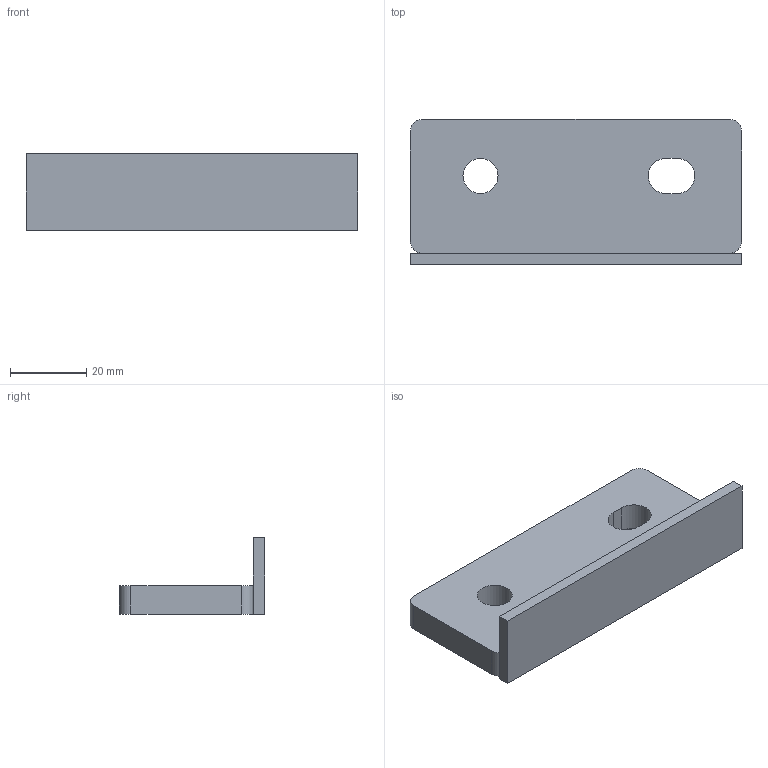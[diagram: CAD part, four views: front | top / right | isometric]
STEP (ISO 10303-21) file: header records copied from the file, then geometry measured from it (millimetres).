
FILE_DESCRIPTION(('FreeCAD Model'),'2;1');
FILE_NAME('Open CASCADE Shape Model','2026-09-11T13:41:38',( '' ),( '' ),'Open CASCADE STEP processor 7.8','FreeCAD','Unknown');
FILE_SCHEMA(('AUTOMOTIVE_DESIGN { 1 0 10303 214 1 1 1 1 }'));
Length unit declared in the file: millimetre
Products named in the file (1): Open CASCADE STEP translator 7.8 22
Bounding box: 86.7 x 38 x 20 mm (x, y, z)
Volume: 26698.7 mm3; surface area: 10895.6 mm2
Topology: 1 solids, 1 shells, 19 faces, 51 edges, 34 vertices
Faces by surface type: plane 12, cylinder 7
Full cylindrical faces by diameter (mm): 9.2 x1
Entity records: 617 total; most frequent: CARTESIAN_POINT 105, DIRECTION 105, ORIENTED_EDGE 102, EDGE_CURVE 51, LINE 37, VECTOR 37, AXIS2_PLACEMENT_3D 34, VERTEX_POINT 34
